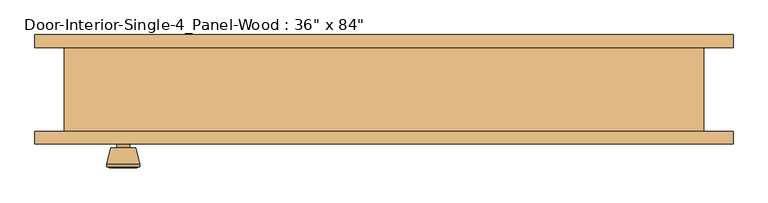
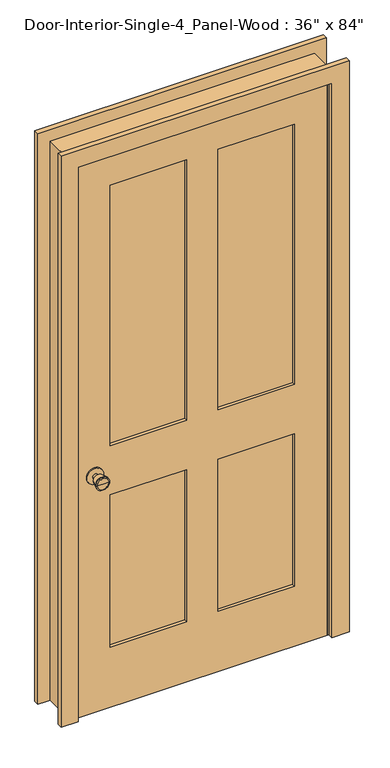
"""IFC4 building model written with IfcOpenShell, lengths in millimetres: door geometry."""

from ifc_helpers import new_model, si_unit, point, frame, frame_2d, origin, place, context, project, spatial, polyline, circle_curve, trimmed, segment, composite_curve, outline, extrude, faceted_brep, source, transform, mapped, element, save
from ifc_brep_helpers import plane_surface, cylinder_surface, revolved_surface, advanced_brep


def door_3a280f7b(model_context):
    return source(origin(), model_context, "Body", "SolidModel", [
        advanced_brep(
        [(-393.7, -19.4, 914.4), (-403.7, -19.4, 914.4), (-383.7, -19.4, 914.4), (-373.2241324, 29.6, 914.4), (-414.1758676, 29.6, 914.4), (-393.7, 29.6, 914.4), (-368.7, 27.7721319, 914.4), (-418.7, 27.7721319, 914.4), (-368.7, 24.3084537, 914.4), (-418.7, 24.3084537, 914.4), (-375.063764, -0.4, 914.4), (-412.336236, -0.4, 914.4), (-383.7, -0.4, 914.4), (-403.7, -0.4, 914.4)],
        [
            (0, 1),
            (1, 2, circle_curve(frame((-393.7, -19.4, 914.4), z_axis=(0.0, -1.0, 0.0), x_axis=(-1.0, 0.0, 0.0)), 10.0)),
            (2, 0),
            (2, 1, circle_curve(frame((-393.7, -19.4, 914.4), z_axis=(0.0, -1.0, 0.0), x_axis=(-1.0, 0.0, 0.0)), 10.0)),
            (3, 4, circle_curve(frame((-393.7, 29.6, 914.4), z_axis=(0.0, 1.0, 0.0), x_axis=(-1.0, 0.0, 0.0)), 20.4758676)),
            (4, 5),
            (5, 3),
            (4, 3, circle_curve(frame((-393.7, 29.6, 914.4), z_axis=(0.0, 1.0, 0.0), x_axis=(-1.0, 0.0, 0.0)), 20.4758676)),
            (6, 7, circle_curve(frame((-393.7, 27.7721319, 914.4), z_axis=(0.0, 1.0, 0.0), x_axis=(-1.0, 0.0, 0.0)), 25.0)),
            (7, 4),
            (3, 6),
            (7, 6, circle_curve(frame((-393.7, 27.7721319, 914.4), z_axis=(0.0, 1.0, 0.0), x_axis=(-1.0, 0.0, 0.0)), 25.0)),
            (8, 9, circle_curve(frame((-393.7, 24.3084537, 914.4), z_axis=(0.0, 1.0, 0.0), x_axis=(-1.0, 0.0, 0.0)), 25.0)),
            (9, 7),
            (6, 8),
            (9, 8, circle_curve(frame((-393.7, 24.3084537, 914.4), z_axis=(0.0, 1.0, 0.0), x_axis=(-1.0, 0.0, 0.0)), 25.0)),
            (10, 11, circle_curve(frame((-393.7, -0.4, 914.4), z_axis=(0.0, 1.0, 0.0), x_axis=(-1.0, 0.0, 0.0)), 18.636236)),
            (11, 9),
            (8, 10),
            (11, 10, circle_curve(frame((-393.7, -0.4, 914.4), z_axis=(0.0, 1.0, 0.0), x_axis=(-1.0, 0.0, 0.0)), 18.636236)),
            (12, 13, circle_curve(frame((-393.7, -0.4, 914.4), z_axis=(0.0, 1.0, 0.0), x_axis=(-1.0, 0.0, 0.0)), 10.0)),
            (13, 11),
            (10, 12),
            (13, 12, circle_curve(frame((-393.7, -0.4, 914.4), z_axis=(0.0, 1.0, 0.0), x_axis=(-1.0, 0.0, 0.0)), 10.0)),
            (1, 13),
            (12, 2),
        ],
        [
            plane_surface(frame((-393.7, -19.4, 914.4), z_axis=(0.0, -1.0, 0.0), x_axis=(-1.0, 0.0, 0.0))),
            plane_surface(frame((-393.7, 29.6, 914.4), z_axis=(0.0, 1.0, 0.0), x_axis=(-1.0, 0.0, 0.0))),
            revolved_surface(polyline([(-414.1758676, 29.6, 914.4), (-418.7, 27.7721319, 914.4)]), (-393.7, -19.4, 914.4), (0.0, -1.0, 0.0)),
            cylinder_surface(frame((-393.7, -19.4, 914.4), z_axis=(0.0, -1.0, 0.0), x_axis=(-1.0, 0.0, 0.0)), 25.0),
            revolved_surface(polyline([(-418.7, 24.3084537, 914.4), (-412.336236, -0.4, 914.4)]), (-393.7, -19.4, 914.4), (0.0, -1.0, 0.0)),
            plane_surface(frame((-393.7, -0.4, 914.4), z_axis=(0.0, -1.0, 0.0), x_axis=(-1.0, 0.0, 0.0))),
            cylinder_surface(frame((-393.7, -19.4, 914.4), z_axis=(0.0, -1.0, 0.0), x_axis=(-1.0, 0.0, 0.0)), 10.0),
        ],
        [
            (0, [[1, 2, 3]]),
            (0, [[-3, 4, -1]]),
            (1, [[5, 6, 7]]),
            (1, [[8, -7, -6]]),
            (2, [[9, 10, -5, 11]]),
            (2, [[12, -11, -8, -10]]),
            (3, [[13, 14, -9, 15]]),
            (3, [[16, -15, -12, -14]]),
            (4, [[17, 18, -13, 19]]),
            (4, [[20, -19, -16, -18]]),
            (5, [[21, 22, -17, 23]]),
            (5, [[24, -23, -20, -22]]),
            (6, [[-2, 25, -21, 26]]),
            (6, [[-4, -26, -24, -25]]),
        ],
    ),
        extrude(outline(composite_curve([segment(trimmed(circle_curve(frame_2d((914.4, -393.7)), 30.0), [point((914.4, -423.7))], [point((914.4, -363.7))], False, "CARTESIAN"), True, "CONTINUOUS"), segment(trimmed(circle_curve(frame_2d((914.4, -393.7)), 30.0), [point((914.4, -363.7))], [point((914.4, -423.7))], False, "CARTESIAN"), True, "CONTINUOUS")], self_intersect=False)), frame((0.0, -25.4, 0.0), z_axis=(0.0, 1.0, 0.0), x_axis=(0.0, 0.0, 1.0)), (0.0, 0.0, 1.0), 6.0),
        advanced_brep(
        [(-393.7, -66.325, 914.4), (-383.7, -66.325, 914.4), (-403.7, -66.325, 914.4), (-373.2241324, -115.325, 914.4), (-393.7, -115.325, 914.4), (-414.1758676, -115.325, 914.4), (-368.7, -113.4971319, 914.4), (-418.7, -113.4971319, 914.4), (-368.7, -110.0334537, 914.4), (-418.7, -110.0334537, 914.4), (-375.063764, -85.325, 914.4), (-412.336236, -85.325, 914.4), (-383.7, -85.325, 914.4), (-403.7, -85.325, 914.4)],
        [
            (0, 1),
            (1, 2, circle_curve(frame((-393.7, -66.325, 914.4), z_axis=(0.0, 1.0, 0.0), x_axis=(-1.0, 0.0, 0.0)), 10.0)),
            (2, 0),
            (2, 1, circle_curve(frame((-393.7, -66.325, 914.4), z_axis=(0.0, 1.0, 0.0), x_axis=(-1.0, 0.0, 0.0)), 10.0)),
            (3, 4),
            (4, 5),
            (5, 3, circle_curve(frame((-393.7, -115.325, 914.4), z_axis=(0.0, -1.0, 0.0), x_axis=(-1.0, 0.0, 0.0)), 20.4758676)),
            (3, 5, circle_curve(frame((-393.7, -115.325, 914.4), z_axis=(0.0, -1.0, 0.0), x_axis=(-1.0, 0.0, 0.0)), 20.4758676)),
            (6, 3),
            (5, 7),
            (7, 6, circle_curve(frame((-393.7, -113.4971319, 914.4), z_axis=(0.0, -1.0, 0.0), x_axis=(-1.0, 0.0, 0.0)), 25.0)),
            (6, 7, circle_curve(frame((-393.7, -113.4971319, 914.4), z_axis=(0.0, -1.0, 0.0), x_axis=(-1.0, 0.0, 0.0)), 25.0)),
            (8, 6),
            (7, 9),
            (9, 8, circle_curve(frame((-393.7, -110.0334537, 914.4), z_axis=(0.0, -1.0, 0.0), x_axis=(-1.0, 0.0, 0.0)), 25.0)),
            (8, 9, circle_curve(frame((-393.7, -110.0334537, 914.4), z_axis=(0.0, -1.0, 0.0), x_axis=(-1.0, 0.0, 0.0)), 25.0)),
            (10, 8),
            (9, 11),
            (11, 10, circle_curve(frame((-393.7, -85.325, 914.4), z_axis=(0.0, -1.0, 0.0), x_axis=(-1.0, 0.0, 0.0)), 18.636236)),
            (10, 11, circle_curve(frame((-393.7, -85.325, 914.4), z_axis=(0.0, -1.0, 0.0), x_axis=(-1.0, 0.0, 0.0)), 18.636236)),
            (12, 10),
            (11, 13),
            (13, 12, circle_curve(frame((-393.7, -85.325, 914.4), z_axis=(0.0, -1.0, 0.0), x_axis=(-1.0, 0.0, 0.0)), 10.0)),
            (12, 13, circle_curve(frame((-393.7, -85.325, 914.4), z_axis=(0.0, -1.0, 0.0), x_axis=(-1.0, 0.0, 0.0)), 10.0)),
            (1, 12),
            (13, 2),
        ],
        [
            plane_surface(frame((-393.7, -66.325, 914.4), z_axis=(0.0, 1.0, 0.0), x_axis=(-1.0, 0.0, 0.0))),
            plane_surface(frame((-393.7, -115.325, 914.4), z_axis=(0.0, -1.0, 0.0), x_axis=(-1.0, 0.0, 0.0))),
            revolved_surface(polyline([(-414.1758676, -115.325, 914.4), (-418.7, -113.4971319, 914.4)]), (-393.7, -66.325, 914.4), (0.0, 1.0, 0.0)),
            cylinder_surface(frame((-393.7, -66.325, 914.4), z_axis=(0.0, 1.0, 0.0), x_axis=(-1.0, 0.0, 0.0)), 25.0),
            revolved_surface(polyline([(-418.7, -110.0334537, 914.4), (-412.336236, -85.325, 914.4)]), (-393.7, -66.325, 914.4), (0.0, 1.0, 0.0)),
            plane_surface(frame((-393.7, -85.325, 914.4), z_axis=(0.0, 1.0, 0.0), x_axis=(-1.0, 0.0, 0.0))),
            cylinder_surface(frame((-393.7, -66.325, 914.4), z_axis=(0.0, 1.0, 0.0), x_axis=(-1.0, 0.0, 0.0)), 10.0),
        ],
        [
            (0, [[1, 2, 3]]),
            (0, [[-3, 4, -1]]),
            (1, [[5, 6, 7]]),
            (1, [[-6, -5, 8]]),
            (2, [[9, -7, 10, 11]]),
            (2, [[-10, -8, -9, 12]]),
            (3, [[13, -11, 14, 15]]),
            (3, [[-14, -12, -13, 16]]),
            (4, [[17, -15, 18, 19]]),
            (4, [[-18, -16, -17, 20]]),
            (5, [[21, -19, 22, 23]]),
            (5, [[-22, -20, -21, 24]]),
            (6, [[25, -23, 26, -2]]),
            (6, [[-26, -24, -25, -4]]),
        ],
    ),
        extrude(outline(composite_curve([segment(trimmed(circle_curve(frame_2d((914.4, -393.7)), 30.0), [point((914.4, -423.7))], [point((914.4, -363.7))], False, "CARTESIAN"), True, "CONTINUOUS"), segment(trimmed(circle_curve(frame_2d((914.4, -393.7)), 30.0), [point((914.4, -363.7))], [point((914.4, -423.7))], False, "CARTESIAN"), True, "CONTINUOUS")], self_intersect=False)), frame((0.0, -66.325, 0.0), z_axis=(0.0, 1.0, 0.0), x_axis=(0.0, 0.0, 1.0)), (0.0, 0.0, 1.0), 6.0),
        extrude(outline(polyline([(336.55, -37.0416667), (336.55, -48.6833333), (57.15, -48.6833333), (57.15, -37.0416667), (336.55, -37.0416667)])), frame((0.0, 0.0, 1009.65), z_axis=(0.0, 0.0, 1.0), x_axis=(1.0, 0.0, 0.0)), (0.0, 0.0, 1.0), 1004.8875),
        extrude(outline(polyline([(-57.15, -37.0416667), (-57.15, -48.6833333), (-336.55, -48.6833333), (-336.55, -37.0416667), (-57.15, -37.0416667)])), frame((0.0, 0.0, 1009.65), z_axis=(0.0, 0.0, 1.0), x_axis=(1.0, 0.0, 0.0)), (0.0, 0.0, 1.0), 1004.8875),
        extrude(outline(polyline([(336.55, -37.0416667), (336.55, -48.6833333), (57.15, -48.6833333), (57.15, -37.0416667), (336.55, -37.0416667)])), frame((0.0, 0.0, 231.775), z_axis=(0.0, 0.0, 1.0), x_axis=(1.0, 0.0, 0.0)), (0.0, 0.0, 1.0), 587.375),
        extrude(outline(polyline([(-57.15, -37.0416667), (-57.15, -48.6833333), (-336.55, -48.6833333), (-336.55, -37.0416667), (-57.15, -37.0416667)])), frame((0.0, 0.0, 231.775), z_axis=(0.0, 0.0, 1.0), x_axis=(1.0, 0.0, 0.0)), (0.0, 0.0, 1.0), 587.375),
        extrude(outline(polyline([(2133.6, -457.2), (0.0, -457.2), (0.0, 457.2), (2133.6, 457.2), (2133.6, -457.2)]), holes=[polyline([(2014.5375, 57.15), (2014.5375, 336.55), (1009.65, 336.55), (1009.65, 57.15), (2014.5375, 57.15)]), polyline([(1009.65, -57.15), (1009.65, -336.55), (2014.5375, -336.55), (2014.5375, -57.15), (1009.65, -57.15)]), polyline([(819.15, 57.15), (819.15, 336.55), (231.775, 336.55), (231.775, 57.15), (819.15, 57.15)]), polyline([(231.775, -57.15), (231.775, -336.55), (819.15, -336.55), (819.15, -57.15), (231.775, -57.15)])]), frame((0.0, -60.325, 0.0), z_axis=(0.0, 1.0, 0.0), x_axis=(0.0, 0.0, 1.0)), (0.0, 0.0, 1.0), 34.925),
        faceted_brep([(482.6, -60.325, 0.0), (457.2, -60.325, 0.0), (457.2, -25.4, 0.0), (444.5, -25.4, 0.0), (444.5, 9.525, 0.0), (457.2, 9.525, 0.0), (457.2, 66.675, 0.0), (482.6, 66.675, 0.0), (482.6, 66.675, 2159.0), (482.6, -60.325, 2159.0), (457.2, 66.675, 2133.6), (-457.2, 66.675, 2133.6), (-457.2, 66.675, 0.0), (-482.6, 66.675, 0.0), (-482.6, 66.675, 2159.0), (457.2, 9.525, 2133.6), (444.5, 9.525, 2120.9), (-444.5, 9.525, 2120.9), (-444.5, 9.525, 0.0), (-457.2, 9.525, 0.0), (-457.2, 9.525, 2133.6), (444.5, -25.4, 2120.9), (457.2, -25.4, 2133.6), (-457.2, -25.4, 2133.6), (-457.2, -25.4, 0.0), (-444.5, -25.4, 0.0), (-444.5, -25.4, 2120.9), (457.2, -60.325, 2133.6), (-482.6, -60.325, 2159.0), (-482.6, -60.325, 0.0), (-457.2, -60.325, 0.0), (-457.2, -60.325, 2133.6)], [[[0, 1, 2, 3, 4, 5, 6, 7]], [[7, 8, 9, 0]], [[6, 10, 11, 12, 13, 14, 8, 7]], [[5, 15, 10, 6]], [[4, 16, 17, 18, 19, 20, 15, 5]], [[3, 21, 16, 4]], [[2, 22, 23, 24, 25, 26, 21, 3]], [[1, 27, 22, 2]], [[0, 9, 28, 29, 30, 31, 27, 1]], [[8, 14, 28, 9]], [[15, 20, 11, 10]], [[21, 26, 17, 16]], [[27, 31, 23, 22]], [[29, 13, 12, 19, 18, 25, 24, 30]], [[14, 13, 29, 28]], [[20, 19, 12, 11]], [[26, 25, 18, 17]], [[31, 30, 24, 23]]]),
        extrude(outline(polyline([(0.0, 527.05), (2203.45, 527.05), (2203.45, -527.05), (0.0, -527.05), (0.0, -463.55), (2139.95, -463.55), (2139.95, 463.55), (0.0, 463.55), (0.0, 527.05)])), frame((0.0, 66.675, 0.0), z_axis=(0.0, 1.0, 0.0), x_axis=(0.0, 0.0, 1.0)), (0.0, 0.0, 1.0), 19.05),
        extrude(outline(polyline([(0.0, 527.05), (2203.45, 527.05), (2203.45, -527.05), (0.0, -527.05), (0.0, -463.55), (2139.95, -463.55), (2139.95, 463.55), (0.0, 463.55), (0.0, 527.05)])), frame((0.0, -79.375, 0.0), z_axis=(0.0, 1.0, 0.0), x_axis=(0.0, 0.0, 1.0)), (0.0, 0.0, 1.0), 19.05),
    ])


if __name__ == "__main__":
    model = new_model("IFC4")
    model_context = context("Model", 3, world=origin())
    ifc_project = project(units=[si_unit("LENGTHUNIT", "METRE", prefix="MILLI")], contexts=[model_context])
    site = spatial("IfcSite", under=ifc_project)
    building = spatial("IfcBuilding", under=site)
    placement = place(None, origin())
    door_shape = door_3a280f7b(model_context)
    element("IfcDoor", 1, ObjectType="Door-Interior-Single-4_Panel-Wood : 36\" x 84\"", at=placement, inside=building, context=model_context, shape_type="MappedRepresentation", body=[
        mapped(door_shape, transform((0.0, 0.0, 0.0), x_axis=(1.0, 0.0, 0.0), y_axis=(0.0, 1.0, 0.0), z_axis=(0.0, 0.0, 1.0))),
    ])
    save(model, "model.ifc")
